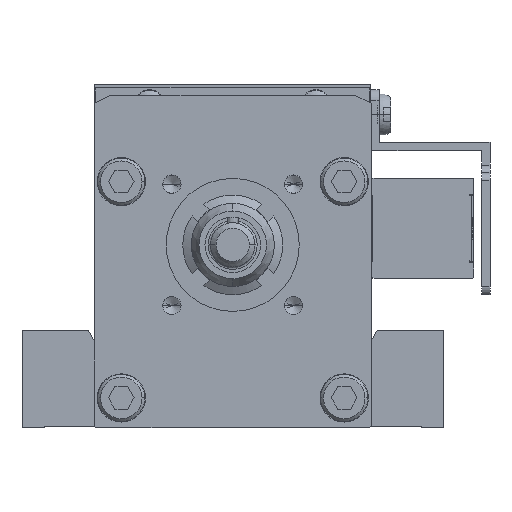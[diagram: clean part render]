
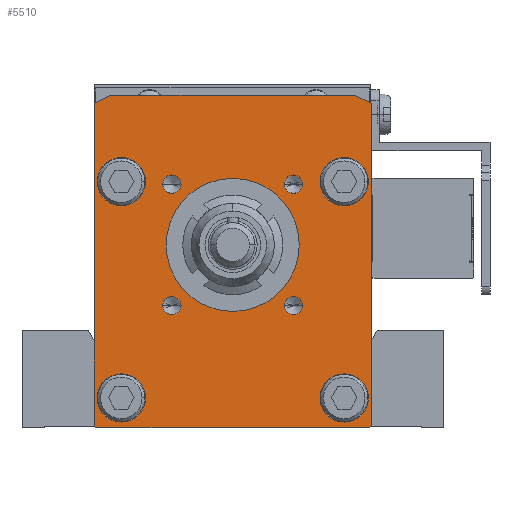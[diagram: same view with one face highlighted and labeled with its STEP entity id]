
A CAD part, front view. The second image highlights one B-rep face of the part: STEP entity #5510.
In plain terms, the highlighted planar face has unit normal (0, -1, 0) as drawn and (0, 0, -1) by its records, which use the part's own axes.
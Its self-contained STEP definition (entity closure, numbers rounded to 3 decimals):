
#3300=CARTESIAN_POINT('',(-39.83,68.249,
-29.133));
#3310=VERTEX_POINT('',#3300);
#3390=CARTESIAN_POINT('',(-31.13,68.249,
-29.133));
#3400=VERTEX_POINT('',#3390);
#3430=CARTESIAN_POINT('',(-35.48,68.249,
-29.133));
#3440=DIRECTION('',(0.,0.,1.));
#3450=DIRECTION('',(-1.,0.,0.));
#3460=AXIS2_PLACEMENT_3D('',#3430,#3440,#3450);
#3470=CIRCLE('',#3460,4.35);
#3480=EDGE_CURVE('',#3400,#3310,#3470,.T.);
#3530=CARTESIAN_POINT('',(-11.87,56.091,
-29.133));
#3540=DIRECTION('',(0.,0.,1.));
#3550=DIRECTION('',(1.,0.,0.));
#3560=AXIS2_PLACEMENT_3D('',#3530,#3540,#3550);
#3570=PLANE('',#3560);
#3580=CARTESIAN_POINT('',(-4.42,45.889,
-29.133));
#3590=DIRECTION('',(0.,0.,-1.));
#3600=DIRECTION('',(1.,0.,0.));
#3610=AXIS2_PLACEMENT_3D('',#3580,#3590,#3600);
#3620=CIRCLE('',#3610,1.65);
#3630=CARTESIAN_POINT('',(-6.07,45.889,
-29.133));
#3640=VERTEX_POINT('',#3630);
#3650=CARTESIAN_POINT('',(-2.77,45.889,
-29.133));
#3660=VERTEX_POINT('',#3650);
#3670=EDGE_CURVE('',#3640,#3660,#3620,.T.);
#3680=ORIENTED_EDGE('',*,*,#3670,.F.);
#3690=EDGE_CURVE('',#3660,#3640,#3620,.T.);
#3700=ORIENTED_EDGE('',*,*,#3690,.F.);
#3710=EDGE_LOOP('',(#3700,#3680));
#3720=FACE_BOUND('',#3710,.T.);
#3730=CARTESIAN_POINT('',(-35.48,29.249,
-29.133));
#3740=DIRECTION('',(0.,0.,1.));
#3750=DIRECTION('',(-1.,0.,0.));
#3760=AXIS2_PLACEMENT_3D('',#3730,#3740,#3750);
#3770=CIRCLE('',#3760,4.35);
#3780=CARTESIAN_POINT('',(-39.83,29.249,
-29.133));
#3790=VERTEX_POINT('',#3780);
#3800=CARTESIAN_POINT('',(-31.13,29.249,
-29.133));
#3810=VERTEX_POINT('',#3800);
#3820=EDGE_CURVE('',#3790,#3810,#3770,.T.);
#3830=ORIENTED_EDGE('',*,*,#3820,.T.);
#3840=EDGE_CURVE('',#3810,#3790,#3770,.T.);
#3850=ORIENTED_EDGE('',*,*,#3840,.T.);
#3860=EDGE_LOOP('',(#3850,#3830));
#3870=FACE_BOUND('',#3860,.T.);
#3880=EDGE_CURVE('',#3310,#3400,#3470,.T.);
#3890=ORIENTED_EDGE('',*,*,#3880,.T.);
#3900=ORIENTED_EDGE('',*,*,#3480,.T.);
#3910=EDGE_LOOP('',(#3900,#3890));
#3920=FACE_BOUND('',#3910,.T.);
#3930=CARTESIAN_POINT('',(4.72,68.249,
-29.133));
#3940=DIRECTION('',(0.,0.,1.));
#3950=DIRECTION('',(-1.,0.,0.));
#3960=AXIS2_PLACEMENT_3D('',#3930,#3940,#3950);
#3970=CIRCLE('',#3960,4.35);
#3980=CARTESIAN_POINT('',(9.07,68.249,
-29.133));
#3990=VERTEX_POINT('',#3980);
#4000=CARTESIAN_POINT('',(0.37,68.249,
-29.133));
#4010=VERTEX_POINT('',#4000);
#4020=EDGE_CURVE('',#3990,#4010,#3970,.T.);
#4030=ORIENTED_EDGE('',*,*,#4020,.T.);
#4040=EDGE_CURVE('',#4010,#3990,#3970,.T.);
#4050=ORIENTED_EDGE('',*,*,#4040,.T.);
#4060=EDGE_LOOP('',(#4050,#4030));
#4070=FACE_BOUND('',#4060,.T.);
#4080=CARTESIAN_POINT('',(4.72,29.249,
-29.133));
#4090=DIRECTION('',(0.,0.,1.));
#4100=DIRECTION('',(-1.,0.,0.));
#4110=AXIS2_PLACEMENT_3D('',#4080,#4090,#4100);
#4120=CIRCLE('',#4110,4.35);
#4130=CARTESIAN_POINT('',(9.07,29.249,
-29.133));
#4140=VERTEX_POINT('',#4130);
#4150=CARTESIAN_POINT('',(0.37,29.249,
-29.133));
#4160=VERTEX_POINT('',#4150);
#4170=EDGE_CURVE('',#4140,#4160,#4120,.T.);
#4180=ORIENTED_EDGE('',*,*,#4170,.T.);
#4190=EDGE_CURVE('',#4160,#4140,#4120,.T.);
#4200=ORIENTED_EDGE('',*,*,#4190,.T.);
#4210=EDGE_LOOP('',(#4200,#4180));
#4220=FACE_BOUND('',#4210,.T.);
#4230=CARTESIAN_POINT('',(-15.38,56.849,
-29.133));
#4240=DIRECTION('',(0.,0.,-1.));
#4250=DIRECTION('',(1.,0.,0.));
#4260=AXIS2_PLACEMENT_3D('',#4230,#4240,#4250);
#4270=CIRCLE('',#4260,12.);
#4280=CARTESIAN_POINT('',(-3.38,56.849,
-29.133));
#4290=VERTEX_POINT('',#4280);
#4300=CARTESIAN_POINT('',(-27.38,56.849,
-29.133));
#4310=VERTEX_POINT('',#4300);
#4320=EDGE_CURVE('',#4290,#4310,#4270,.T.);
#4330=ORIENTED_EDGE('',*,*,#4320,.F.);
#4340=EDGE_CURVE('',#4310,#4290,#4270,.T.);
#4350=ORIENTED_EDGE('',*,*,#4340,.F.);
#4360=EDGE_LOOP('',(#4350,#4330));
#4370=FACE_BOUND('',#4360,.T.);
#4380=CARTESIAN_POINT('',(-26.34,45.889,
-29.133));
#4390=DIRECTION('',(0.,0.,1.));
#4400=DIRECTION('',(-1.,0.,0.));
#4410=AXIS2_PLACEMENT_3D('',#4380,#4390,#4400);
#4420=CIRCLE('',#4410,1.65);
#4430=CARTESIAN_POINT('',(-24.69,45.889,
-29.133));
#4440=VERTEX_POINT('',#4430);
#4450=CARTESIAN_POINT('',(-27.99,45.889,
-29.133));
#4460=VERTEX_POINT('',#4450);
#4470=EDGE_CURVE('',#4440,#4460,#4420,.T.);
#4480=ORIENTED_EDGE('',*,*,#4470,.T.);
#4490=EDGE_CURVE('',#4460,#4440,#4420,.T.);
#4500=ORIENTED_EDGE('',*,*,#4490,.T.);
#4510=EDGE_LOOP('',(#4500,#4480));
#4520=FACE_BOUND('',#4510,.T.);
#4530=CARTESIAN_POINT('',(-26.34,67.809,
-29.133));
#4540=DIRECTION('',(0.,0.,1.));
#4550=DIRECTION('',(-1.,0.,0.));
#4560=AXIS2_PLACEMENT_3D('',#4530,#4540,#4550);
#4570=CIRCLE('',#4560,1.65);
#4580=CARTESIAN_POINT('',(-27.99,67.809,
-29.133));
#4590=VERTEX_POINT('',#4580);
#4600=CARTESIAN_POINT('',(-24.69,67.809,
-29.133));
#4610=VERTEX_POINT('',#4600);
#4620=EDGE_CURVE('',#4590,#4610,#4570,.T.);
#4630=ORIENTED_EDGE('',*,*,#4620,.T.);
#4640=EDGE_CURVE('',#4610,#4590,#4570,.T.);
#4650=ORIENTED_EDGE('',*,*,#4640,.T.);
#4660=EDGE_LOOP('',(#4650,#4630));
#4670=FACE_BOUND('',#4660,.T.);
#4680=CARTESIAN_POINT('',(-4.42,67.809,
-29.133));
#4690=DIRECTION('',(0.,0.,-1.));
#4700=DIRECTION('',(1.,0.,0.));
#4710=AXIS2_PLACEMENT_3D('',#4680,#4690,#4700);
#4720=CIRCLE('',#4710,1.65);
#4730=CARTESIAN_POINT('',(-2.77,67.809,
-29.133));
#4740=VERTEX_POINT('',#4730);
#4750=CARTESIAN_POINT('',(-6.07,67.809,
-29.133));
#4760=VERTEX_POINT('',#4750);
#4770=EDGE_CURVE('',#4740,#4760,#4720,.T.);
#4780=ORIENTED_EDGE('',*,*,#4770,.F.);
#4790=EDGE_CURVE('',#4760,#4740,#4720,.T.);
#4800=ORIENTED_EDGE('',*,*,#4790,.F.);
#4810=EDGE_LOOP('',(#4800,#4780));
#4820=FACE_BOUND('',#4810,.T.);
#4830=CARTESIAN_POINT('',(9.12,24.349,
-29.133));
#4840=DIRECTION('',(0.,0.,-1.));
#4850=DIRECTION('',(1.,0.,0.));
#4860=AXIS2_PLACEMENT_3D('',#4830,#4840,#4850);
#4870=CIRCLE('',#4860,0.5);
#4880=CARTESIAN_POINT('',(9.62,24.349,
-29.133));
#4890=VERTEX_POINT('',#4880);
#4900=CARTESIAN_POINT('',(9.12,23.849,
-29.133));
#4910=VERTEX_POINT('',#4900);
#4920=EDGE_CURVE('',#4890,#4910,#4870,.T.);
#4930=ORIENTED_EDGE('',*,*,#4920,.T.);
#4940=CARTESIAN_POINT('',(9.62,82.349,
-29.133));
#4950=DIRECTION('',(0.,-1.,0.));
#4960=VECTOR('',#4950,1.);
#4970=LINE('',#4940,#4960);
#4980=CARTESIAN_POINT('',(9.62,82.349,
-29.133));
#4990=VERTEX_POINT('',#4980);
#5000=EDGE_CURVE('',#4990,#4890,#4970,.T.);
#5010=ORIENTED_EDGE('',*,*,#5000,.T.);
#5020=CARTESIAN_POINT('',(9.62,82.349,
-29.133));
#5030=DIRECTION('',(-0.894,0.447,0.));
#5040=VECTOR('',#5030,1.);
#5050=LINE('',#5020,#5040);
#5060=CARTESIAN_POINT('',(6.62,83.849,
-29.133));
#5070=VERTEX_POINT('',#5060);
#5080=EDGE_CURVE('',#4990,#5070,#5050,.T.);
#5090=ORIENTED_EDGE('',*,*,#5080,.F.);
#5100=CARTESIAN_POINT('',(-37.38,83.849,
-29.133));
#5110=DIRECTION('',(1.,0.,0.));
#5120=VECTOR('',#5110,1.);
#5130=LINE('',#5100,#5120);
#5140=CARTESIAN_POINT('',(-37.38,83.849,
-29.133));
#5150=VERTEX_POINT('',#5140);
#5160=EDGE_CURVE('',#5150,#5070,#5130,.T.);
#5170=ORIENTED_EDGE('',*,*,#5160,.T.);
#5180=CARTESIAN_POINT('',(-40.38,82.349,
-29.133));
#5190=DIRECTION('',(0.894,0.447,0.));
#5200=VECTOR('',#5190,1.);
#5210=LINE('',#5180,#5200);
#5220=CARTESIAN_POINT('',(-40.38,82.349,
-29.133));
#5230=VERTEX_POINT('',#5220);
#5240=EDGE_CURVE('',#5230,#5150,#5210,.T.);
#5250=ORIENTED_EDGE('',*,*,#5240,.T.);
#5260=CARTESIAN_POINT('',(-40.38,24.349,
-29.133));
#5270=DIRECTION('',(0.,1.,0.));
#5280=VECTOR('',#5270,1.);
#5290=LINE('',#5260,#5280);
#5300=CARTESIAN_POINT('',(-40.38,24.349,
-29.133));
#5310=VERTEX_POINT('',#5300);
#5320=EDGE_CURVE('',#5310,#5230,#5290,.T.);
#5330=ORIENTED_EDGE('',*,*,#5320,.T.);
#5340=CARTESIAN_POINT('',(-39.88,24.349,
-29.133));
#5350=DIRECTION('',(0.,0.,-1.));
#5360=DIRECTION('',(0.,-1.,0.));
#5370=AXIS2_PLACEMENT_3D('',#5340,#5350,#5360);
#5380=CIRCLE('',#5370,0.5);
#5390=CARTESIAN_POINT('',(-39.88,23.849,
-29.133));
#5400=VERTEX_POINT('',#5390);
#5410=EDGE_CURVE('',#5400,#5310,#5380,.T.);
#5420=ORIENTED_EDGE('',*,*,#5410,.T.);
#5430=CARTESIAN_POINT('',(9.12,23.849,
-29.133));
#5440=DIRECTION('',(-1.,0.,0.));
#5450=VECTOR('',#5440,1.);
#5460=LINE('',#5430,#5450);
#5470=EDGE_CURVE('',#4910,#5400,#5460,.T.);
#5480=ORIENTED_EDGE('',*,*,#5470,.T.);
#5490=EDGE_LOOP('',(#5480,#5420,#5330,#5250,#5170,#5090,#5010,#4930));
#5500=FACE_OUTER_BOUND('',#5490,.T.);
#5510=ADVANCED_FACE('',(#3720,#3870,#3920,#4070,#4220,#4370,#4520,#4670,
#4820,#5500),#3570,.F.);
